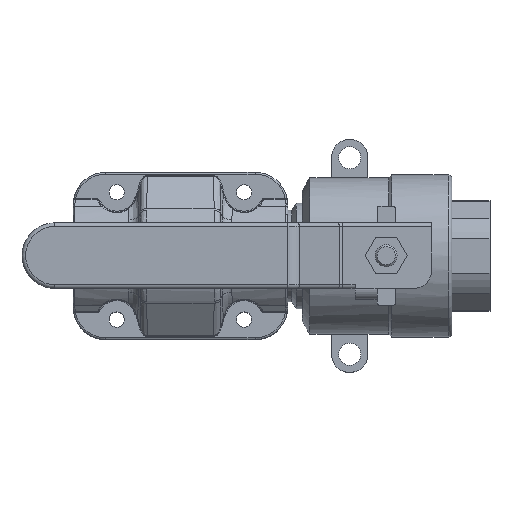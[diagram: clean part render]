
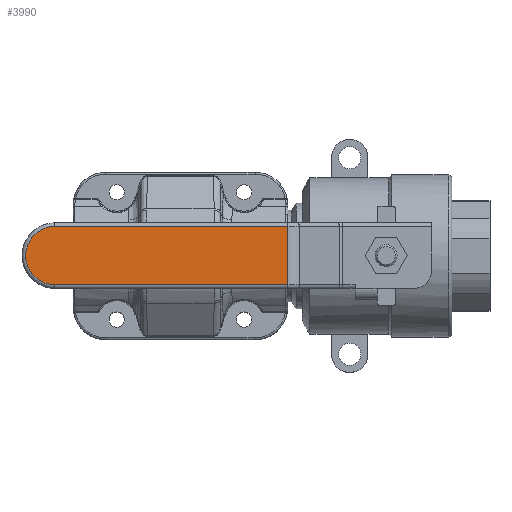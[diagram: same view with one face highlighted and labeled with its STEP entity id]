
A CAD part, top view. The second image highlights one B-rep face of the part: STEP entity #3990.
In plain terms, the highlighted planar face has unit normal (0, 0, 1).
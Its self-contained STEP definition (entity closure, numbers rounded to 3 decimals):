
#1053=DIRECTION('',(1.,0.,0.));
#1054=VECTOR('',#1053,64.103);
#1055=CARTESIAN_POINT('',(-36.043,8.01,57.368));
#1056=LINE('',#1055,#1054);
#1060=DIRECTION('',(0.,1.,0.));
#1061=VECTOR('',#1060,16.019);
#1062=CARTESIAN_POINT('',(28.06,-8.01,57.368));
#1063=LINE('',#1062,#1061);
#1067=DIRECTION('',(-1.,0.,0.));
#1068=VECTOR('',#1067,64.103);
#1069=CARTESIAN_POINT('',(28.06,-8.01,57.368));
#1070=LINE('',#1069,#1068);
#1074=CARTESIAN_POINT('',(-36.043,0.,57.368));
#1075=DIRECTION('',(0.,0.,-1.));
#1076=DIRECTION('',(0.,-1.,0.));
#1077=AXIS2_PLACEMENT_3D('',#1074,#1075,#1076);
#3014=CARTESIAN_POINT('',(28.06,8.01,57.368));
#3015=VERTEX_POINT('',#3014);
#3018=CARTESIAN_POINT('',(-36.043,8.01,57.368));
#3019=VERTEX_POINT('',#3018);
#3022=CARTESIAN_POINT('',(-36.043,-8.01,57.368));
#3023=VERTEX_POINT('',#3022);
#3026=CARTESIAN_POINT('',(28.06,-8.01,57.368));
#3027=VERTEX_POINT('',#3026);
#3978=CARTESIAN_POINT('',(30.036,9.011,57.368));
#3979=DIRECTION('',(0.,0.,1.));
#3980=DIRECTION('',(-1.,0.,0.));
#3981=AXIS2_PLACEMENT_3D('',#3978,#3979,#3980);
#3982=PLANE('',#3981);
#3983=ORIENTED_EDGE('',*,*,#3891,.T.);
#3985=ORIENTED_EDGE('',*,*,#3984,.F.);
#3986=ORIENTED_EDGE('',*,*,#3972,.T.);
#3987=ORIENTED_EDGE('',*,*,#3876,.T.);
#3988=EDGE_LOOP('',(#3983,#3985,#3986,#3987));
#3989=FACE_OUTER_BOUND('',#3988,.F.);
#1078=CIRCLE('',#1077,8.01);
#3876=EDGE_CURVE('',#3023,#3019,#1078,.T.);
#3891=EDGE_CURVE('',#3019,#3015,#1056,.T.);
#3972=EDGE_CURVE('',#3027,#3023,#1070,.T.);
#3984=EDGE_CURVE('',#3027,#3015,#1063,.T.);
#3990=ADVANCED_FACE('',(#3989),#3982,.T.);
